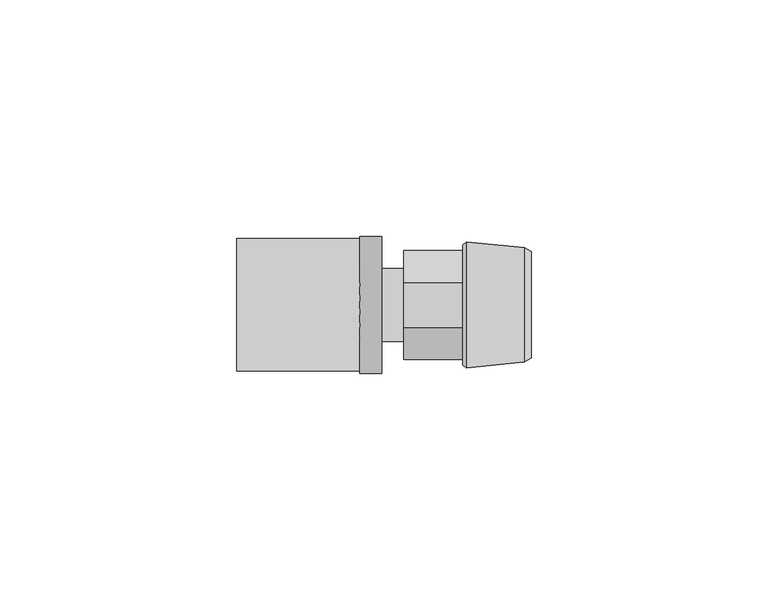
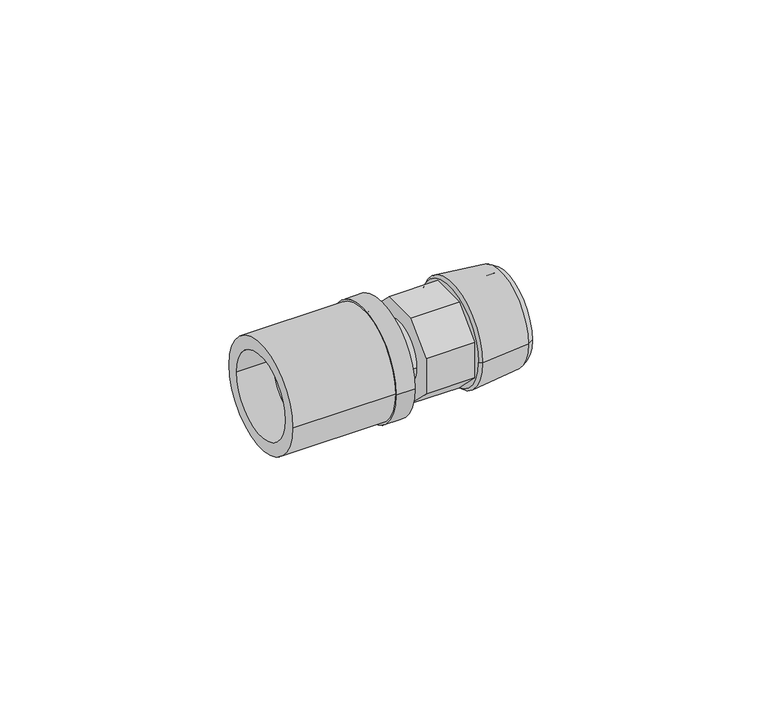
"""IFC4 building model written with IfcOpenShell, lengths in millimetres: pipe fitting geometry, FASTLOC_Adapter_RX+, with external thread : FSL A C external EX+ AT."""

import ifcopenshell
import ifcopenshell.guid

model = None  # the IFC model being written
_history = None  # IfcOwnerHistory: only IFC2X3 demands one
_inside = {}  # id of a spatial element -> (the spatial element, [elements in it])
_under = {}  # id of a project, library or spatial element -> (it, [spatial elements below it])
_declared = {}  # id of a project -> (the project, [libraries it declares])
_typed = {}  # id of a type object -> (the type object, [elements of that type])
_made_of = {}  # id of a material, layer set ... -> (it, [elements and type objects made of it])


def new_model(schema):
    """Start an empty IFC model of exactly this schema.

    Asked for "IFC4X3", IfcOpenShell would pick the latest addendum, in which some entities
    have other attributes; the version numbers below select the first issue.
    IFC2X3 requires an IfcOwnerHistory on every rooted entity: one is made here for all.
    """
    global model, _history
    if schema == "IFC4X3":
        model = ifcopenshell.file(schema_version=(4, 3, 0, 0))
    else:
        model = ifcopenshell.file(schema=schema)
    _inside.clear()
    _under.clear()
    _declared.clear()
    _typed.clear()
    _made_of.clear()
    _history = None
    if model.schema == "IFC2X3":
        org = make("IfcOrganization", Name="unknown")
        user = make(
            "IfcPersonAndOrganization",
            ThePerson=make("IfcPerson", FamilyName="unknown"),
            TheOrganization=org,
        )
        app = make(
            "IfcApplication",
            ApplicationDeveloper=org,
            Version="unknown",
            ApplicationFullName="unknown",
            ApplicationIdentifier="unknown",
        )
        _history = make(
            "IfcOwnerHistory",
            OwningUser=user,
            OwningApplication=app,
            ChangeAction="ADDED",
            CreationDate=0,
        )
    return model


def make(cls, **values):
    """One entity of the class cls with the attributes given. An attribute that is None is left unset."""
    return model.create_entity(
        cls, **{name: value for name, value in values.items() if value is not None}
    )


def rooted(cls, **values):
    """An entity with a GlobalId (a new one), such as an element, a storey or a relation."""
    return make(cls, GlobalId=ifcopenshell.guid.new(), OwnerHistory=_history, **values)


def si_unit(unit_type, name, prefix=None):
    """IfcSIUnit, for example si_unit("LENGTHUNIT", "METRE", prefix="MILLI")."""
    return make("IfcSIUnit", UnitType=unit_type, Prefix=prefix, Name=name)


def assignment(units):
    """IfcUnitAssignment: the units of a project."""
    return None if units is None else make("IfcUnitAssignment", Units=units)


def point(xyz):
    """IfcCartesianPoint."""
    return None if xyz is None else make("IfcCartesianPoint", Coordinates=xyz)


def direction(xyz):
    """IfcDirection."""
    return None if xyz is None else make("IfcDirection", DirectionRatios=xyz)


def frame(location, z_axis=None, x_axis=None):
    """IfcAxis2Placement3D, a coordinate frame: its origin and axes. An axis left out is left unset."""
    return make(
        "IfcAxis2Placement3D",
        Location=point(location),
        Axis=direction(z_axis),
        RefDirection=direction(x_axis),
    )


def frame_2d(location, x_axis=None):
    """IfcAxis2Placement2D, a coordinate frame in the plane: its origin and x axis."""
    return make(
        "IfcAxis2Placement2D", Location=point(location), RefDirection=direction(x_axis)
    )


def origin():
    """The frame at (0, 0, 0) with its axes left unset."""
    return frame((0.0, 0.0, 0.0))


def origin_2d():
    """The frame at (0, 0) in the plane with its x axis left unset."""
    return frame_2d((0.0, 0.0))


def place(relative_to, where):
    """IfcLocalPlacement: puts the frame where relative to a parent placement (None: the world)."""
    return make(
        "IfcLocalPlacement", PlacementRelTo=relative_to, RelativePlacement=where
    )


def context(
    kind, dimensions, precision=None, world=None, true_north=None, identifier=None
):
    """IfcGeometricRepresentationContext, for example the 3D "Model" context."""
    return make(
        "IfcGeometricRepresentationContext",
        ContextIdentifier=identifier,
        ContextType=kind,
        CoordinateSpaceDimension=dimensions,
        Precision=precision,
        WorldCoordinateSystem=world,
        TrueNorth=true_north,
    )


def project(units=None, contexts=None):
    """IfcProject with its units and contexts."""
    return rooted(
        "IfcProject",
        Name="project",
        RepresentationContexts=contexts,
        UnitsInContext=assignment(units),
    )


def spatial(cls, under=None, at=None, **own):
    """A site, building, storey or space (cls), placed at a placement, below another one or the project."""
    s = rooted(cls, ObjectPlacement=at, **own)
    if under is not None:
        _under.setdefault(under.id(), (under, []))[1].append(s)
    return s


def polyline(points):
    """IfcPolyline through the points."""
    return make("IfcPolyline", Points=[point(p) for p in points])


def circle_curve(where, radius):
    """IfcCircle in the frame where."""
    return make("IfcCircle", Position=where, Radius=radius)


def trimmed(basis, trim1, trim2, sense, master):
    """IfcTrimmedCurve: the piece of a basis curve between two trims."""
    return make(
        "IfcTrimmedCurve",
        BasisCurve=basis,
        Trim1=trim1,
        Trim2=trim2,
        SenseAgreement=sense,
        MasterRepresentation=master,
    )


def segment(curve, same_sense, transition):
    """IfcCompositeCurveSegment."""
    return make(
        "IfcCompositeCurveSegment",
        Transition=transition,
        SameSense=same_sense,
        ParentCurve=curve,
    )


def composite_curve(segments, self_intersect=None):
    """IfcCompositeCurve: segments joined end to end."""
    return make("IfcCompositeCurve", Segments=segments, SelfIntersect=self_intersect)


def outline(outer, holes=None, kind="AREA"):
    """IfcArbitraryClosedProfileDef: a profile drawn as a closed curve; with holes, ...WithVoids."""
    if holes is None:
        return make("IfcArbitraryClosedProfileDef", ProfileType=kind, OuterCurve=outer)
    return make(
        "IfcArbitraryProfileDefWithVoids",
        ProfileType=kind,
        OuterCurve=outer,
        InnerCurves=holes,
    )


def extrude(swept, where, along, depth):
    """IfcExtrudedAreaSolid: the profile swept, set in the frame where, extruded along a direction by depth."""
    return make(
        "IfcExtrudedAreaSolid",
        SweptArea=swept,
        Position=where,
        ExtrudedDirection=direction(along),
        Depth=depth,
    )


def shape(context_of_items, identifier, shape_type, items):
    """IfcShapeRepresentation: the items that make up one representation, for example the "Body"."""
    return make(
        "IfcShapeRepresentation",
        ContextOfItems=context_of_items,
        RepresentationIdentifier=identifier,
        RepresentationType=shape_type,
        Items=items,
    )


def source(mapping_origin, context_of_items, identifier, shape_type, items):
    """IfcRepresentationMap: a shape defined once, which mapped items show again and again."""
    return make(
        "IfcRepresentationMap",
        MappingOrigin=mapping_origin,
        MappedRepresentation=shape(context_of_items, identifier, shape_type, items),
    )


def transform(
    local_origin,
    x_axis=None,
    y_axis=None,
    z_axis=None,
    scale=None,
    scale2=None,
    scale3=None,
    uniform=True,
):
    """IfcCartesianTransformationOperator3D, or its non-uniform kind. x_axis, y_axis, z_axis: its Axis1, 2, 3."""
    if uniform:
        return make(
            "IfcCartesianTransformationOperator3D",
            Axis1=direction(x_axis),
            Axis2=direction(y_axis),
            LocalOrigin=point(local_origin),
            Scale=scale,
            Axis3=direction(z_axis),
        )
    return make(
        "IfcCartesianTransformationOperator3DnonUniform",
        Axis1=direction(x_axis),
        Axis2=direction(y_axis),
        LocalOrigin=point(local_origin),
        Scale=scale,
        Axis3=direction(z_axis),
        Scale2=scale2,
        Scale3=scale3,
    )


def mapped(mapping_source, mapping_target):
    """IfcMappedItem: shows the shape of a source again, moved by a transform."""
    return make(
        "IfcMappedItem", MappingSource=mapping_source, MappingTarget=mapping_target
    )


def made_of(thing, what):
    """Note that an element or type object is made of a material, layer set ...; save() writes the relation."""
    if what is not None:
        _made_of.setdefault(what.id(), (what, []))[1].append(thing)
    return thing


def element(
    cls,
    number,
    at=None,
    inside=None,
    cuts=None,
    type_object=None,
    material=None,
    context=None,
    identifier="Body",
    shape_type=None,
    held_by="IfcProductDefinitionShape",
    body=None,
    shapes=None,
    **own,
):
    """One element of the class cls, such as IfcWall. Its Tag is "e" and its number.

    at: its placement. inside: the storey or other place that contains it. cuts: it is an
    opening in that element (IfcRelVoidsElement). A single representation is given by context,
    identifier, shape_type and body (its items); several are given by shapes. held_by: the class
    of the entity that holds the representations. save() writes the other relations.
    """
    e = rooted(cls, Tag="e%d" % number, ObjectPlacement=at, **own)
    if body is not None:
        shapes = [shape(context, identifier, shape_type, body)]
    if shapes is not None:
        e.Representation = make(held_by, Representations=shapes)
    if inside is not None:
        _inside.setdefault(inside.id(), (inside, []))[1].append(e)
    if cuts is not None:
        rooted(
            "IfcRelVoidsElement", RelatingBuildingElement=cuts, RelatedOpeningElement=e
        )
    if type_object is not None:
        _typed.setdefault(type_object.id(), (type_object, []))[1].append(e)
    return made_of(e, material)


def aggregate(whole, parts):
    """IfcRelAggregates: a whole, such as a stair, and the parts it consists of."""
    return rooted("IfcRelAggregates", RelatingObject=whole, RelatedObjects=parts)


def save(model, path):
    """Write the relations noted so far, then the file.

    IfcRelAggregates (storeys below a building ...), IfcRelContainedInSpatialStructure (elements
    in a storey), IfcRelDefinesByType, IfcRelAssociatesMaterial and IfcRelDeclares: one each for
    every whole, place, type object, material and project.
    """
    for whole, parts in _under.values():
        aggregate(whole, parts)
    for where, things in _inside.values():
        rooted(
            "IfcRelContainedInSpatialStructure",
            RelatedElements=things,
            RelatingStructure=where,
        )
    for kind, things in _typed.values():
        rooted("IfcRelDefinesByType", RelatedObjects=things, RelatingType=kind)
    for what, things in _made_of.values():
        rooted("IfcRelAssociatesMaterial", RelatedObjects=things, RelatingMaterial=what)
    for by, libraries in _declared.values():
        rooted("IfcRelDeclares", RelatingContext=by, RelatedDefinitions=libraries)
    model.write(path)


def plane_surface(at):
    """IfcPlane: the flat surface through the origin of the frame at, square to its z axis."""
    return make("IfcPlane", Position=at)


def cylinder_surface(at, radius):
    """IfcCylindricalSurface: all points at the distance radius from the z axis of the frame at."""
    return make("IfcCylindricalSurface", Position=at, Radius=radius)


def revolved_surface(curve, axis_point, axis_direction):
    """IfcSurfaceOfRevolution: the curve turned about the line through axis_point along axis_direction."""
    return make(
        "IfcSurfaceOfRevolution",
        SweptCurve=make("IfcArbitraryOpenProfileDef", ProfileType="CURVE", Curve=curve),
        AxisPosition=make("IfcAxis1Placement", Location=point(axis_point), Axis=direction(axis_direction)),
    )


def advanced_brep(points, edges, surfaces, faces):
    """IfcAdvancedBrep: a solid bounded by faces that lie on surfaces and meet in shared edges.

    An edge is (start, end): straight between two places in points (the first is 0);
    or (start, end, curve); or (start, end, curve, False) where it runs against its curve.
    A face is (place in surfaces, loops), or (place, loops, False) where it looks against
    its surface's normal. A loop lists edges by number (the first is 1), with a minus sign
    where the edge is run from its end to its start. The first loop is the outer one.
    """
    corners = [point(p) for p in points]
    vertices = [make("IfcVertexPoint", VertexGeometry=c) for c in corners]
    made = []
    for start, end, *more in edges:
        made.append(
            make(
                "IfcEdgeCurve",
                EdgeStart=vertices[start],
                EdgeEnd=vertices[end],
                EdgeGeometry=more[0] if more else make("IfcPolyline", Points=[corners[start], corners[end]]),
                SameSense=more[1] if len(more) > 1 else True,
            )
        )
    hull = []
    for where, loops, *sense in faces:
        bounds = []
        for j, loop in enumerate(loops):
            ring = [make("IfcOrientedEdge", EdgeElement=made[abs(k) - 1], Orientation=k > 0) for k in loop]
            bounds.append(
                make(
                    "IfcFaceOuterBound" if j == 0 else "IfcFaceBound",
                    Bound=make("IfcEdgeLoop", EdgeList=ring),
                    Orientation=True,
                )
            )
        hull.append(make("IfcAdvancedFace", Bounds=bounds, FaceSurface=surfaces[where], SameSense=sense[0] if sense else True))
    return make("IfcAdvancedBrep", Outer=make("IfcClosedShell", CfsFaces=hull))


def pipe_fitting_5ed0d7cb(model_context):
    return source(origin(), model_context, "Body", "SolidModel", [
        extrude(outline(composite_curve([segment(trimmed(circle_curve(origin_2d(), 14.0), [point((14.0, 0.0))], [point((-14.0, 0.0))], False, "CARTESIAN"), True, "CONTINUOUS"), segment(trimmed(circle_curve(origin_2d(), 14.0), [point((-14.0, 0.0))], [point((14.0, 0.0))], False, "CARTESIAN"), True, "CONTINUOUS")], self_intersect=False), holes=[composite_curve([segment(trimmed(circle_curve(origin_2d(), 10.7), [point((10.7, 0.0))], [point((-10.7, 0.0))], True, "CARTESIAN"), True, "CONTINUOUS"), segment(trimmed(circle_curve(origin_2d(), 10.7), [point((-10.7, 0.0))], [point((10.7, 0.0))], True, "CARTESIAN"), True, "CONTINUOUS")], self_intersect=False)]), frame((-35.3, 0.0, 0.0), z_axis=(1.0, 0.0, 0.0), x_axis=(0.0, 1.0, 0.0)), (0.0, 0.0, 1.0), 26.0),
        advanced_brep(
        [(-9.3, -14.5, 0.0), (-9.3, 14.5, 0.0), (-4.6, 14.5, 0.0), (-4.6, -14.5, 0.0), (-26.3, -11.85, 0.0), (-26.3, 11.85, 0.0), (-9.3, 11.85, 0.0), (-9.3, -11.85, 0.0), (-4.6, -10.15, 0.0), (-4.6, 10.15, 0.0), (-26.3, 10.15, 0.0), (-26.3, -10.15, 0.0)],
        [
            (0, 1, circle_curve(frame((-9.3, 0.0, 0.0), z_axis=(1.0, 0.0, 0.0), x_axis=(0.0, 1.0, 0.0)), 14.5)),
            (1, 2),
            (2, 3, circle_curve(frame((-4.6, 0.0, 0.0), z_axis=(-1.0, 0.0, 0.0), x_axis=(0.0, 1.0, 0.0)), 14.5)),
            (3, 0),
            (4, 5, circle_curve(frame((-26.3, 0.0, 0.0), z_axis=(1.0, 0.0, 0.0), x_axis=(0.0, 1.0, 0.0)), 11.85)),
            (5, 6),
            (6, 7, circle_curve(frame((-9.3, 0.0, 0.0), z_axis=(-1.0, 0.0, 0.0), x_axis=(0.0, 1.0, 0.0)), 11.85)),
            (7, 4),
            (8, 9, circle_curve(frame((-4.6, 0.0, 0.0), z_axis=(1.0, 0.0, 0.0), x_axis=(0.0, 1.0, 0.0)), 10.15)),
            (9, 10),
            (10, 11, circle_curve(frame((-26.3, 0.0, 0.0), z_axis=(-1.0, 0.0, 0.0), x_axis=(0.0, 1.0, 0.0)), 10.15)),
            (11, 8),
            (1, 0, circle_curve(frame((-9.3, 0.0, 0.0), z_axis=(1.0, 0.0, 0.0), x_axis=(0.0, -1.0, 0.0)), 14.5)),
            (3, 2, circle_curve(frame((-4.6, 0.0, 0.0), z_axis=(-1.0, 0.0, 0.0), x_axis=(0.0, -1.0, 0.0)), 14.5)),
            (6, 7, circle_curve(frame((-9.3, 0.0, 0.0), z_axis=(1.0, 0.0, 0.0), x_axis=(0.0, -1.0, 0.0)), 11.85)),
            (5, 4, circle_curve(frame((-26.3, 0.0, 0.0), z_axis=(1.0, 0.0, 0.0), x_axis=(0.0, -1.0, 0.0)), 11.85)),
            (10, 11, circle_curve(frame((-26.3, 0.0, 0.0), z_axis=(1.0, 0.0, 0.0), x_axis=(0.0, -1.0, 0.0)), 10.15)),
            (9, 8, circle_curve(frame((-4.6, 0.0, 0.0), z_axis=(1.0, 0.0, 0.0), x_axis=(0.0, -1.0, 0.0)), 10.15)),
        ],
        [
            cylinder_surface(frame((-4.6, 0.0, 0.0), z_axis=(-1.0, 0.0, 0.0), x_axis=(0.0, 1.0, 0.0)), 14.5),
            cylinder_surface(frame((-4.6, 0.0, 0.0), z_axis=(-1.0, 0.0, 0.0), x_axis=(0.0, 1.0, 0.0)), 11.85),
            revolved_surface(polyline([(-26.300000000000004, 10.15, 0.0), (-4.6, 10.15, 0.0)]), (-4.6, 0.0, 0.0), (-1.0, 0.0, 0.0)),
            cylinder_surface(frame((-4.6, 0.0, 0.0), z_axis=(-1.0, 0.0, 0.0), x_axis=(0.0, -1.0, 0.0)), 14.5),
            plane_surface(frame((-9.3, 0.0, 0.0), z_axis=(-1.0, 0.0, 0.0), x_axis=(0.0, -1.0, 0.0))),
            cylinder_surface(frame((-4.6, 0.0, 0.0), z_axis=(-1.0, 0.0, 0.0), x_axis=(0.0, -1.0, 0.0)), 11.85),
            plane_surface(frame((-26.3, 0.0, 0.0), z_axis=(-1.0, 0.0, 0.0), x_axis=(0.0, -1.0, 0.0))),
            revolved_surface(polyline([(-26.300000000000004, -10.15, 0.0), (-4.6, -10.15, 0.0)]), (-4.6, 0.0, 0.0), (-1.0, 0.0, 0.0)),
            plane_surface(frame((-4.6, 0.0, 0.0), z_axis=(1.0, 0.0, 0.0), x_axis=(0.0, -1.0, 0.0))),
        ],
        [
            (0, [[1, 2, 3, 4]]),
            (1, [[5, 6, 7, 8]]),
            (2, [[9, 10, 11, 12]]),
            (3, [[13, -4, 14, -2]]),
            (4, [[-13, -1], [15, -7]]),
            (5, [[16, -8, -15, -6]]),
            (6, [[-16, -5], [17, -11]]),
            (7, [[18, -12, -17, -10]]),
            (8, [[-14, -3], [-18, -9]]),
        ],
    ),
        advanced_brep(
        [(13.6032803, 9.5, 0.0), (13.6032803, -9.5, 0.0), (27.0, -9.5, 0.0), (27.0, 9.5, 0.0), (12.5, 8.3967197, 0.0), (12.5, -8.3967197, 0.0), (13.2406902, 13.3, 0.0), (13.2406902, -13.3, 0.0), (12.5, -12.7, 0.0), (12.5, 12.7, 0.0), (25.5000007, 12.1, 0.0), (25.5000007, -12.1, 0.0), (27.0, 11.25, 0.0), (27.0, -11.25, 0.0)],
        [
            (0, 1, circle_curve(frame((13.6032803, 0.0, 0.0), z_axis=(-1.0, 0.0, 0.0), x_axis=(0.0, -1.0, 0.0)), 9.5)),
            (1, 2),
            (2, 3, circle_curve(frame((27.0, 0.0, 0.0), z_axis=(1.0, 0.0, 0.0), x_axis=(0.0, -1.0, 0.0)), 9.5)),
            (3, 0),
            (4, 5, circle_curve(frame((12.5, 0.0, 0.0), z_axis=(-1.0, 0.0, 0.0), x_axis=(0.0, -1.0, 0.0)), 8.3967197)),
            (5, 1),
            (0, 4),
            (6, 7, circle_curve(frame((13.2406902, 0.0, 0.0), z_axis=(-1.0, 0.0, 0.0), x_axis=(0.0, -1.0, 0.0)), 13.3)),
            (7, 8),
            (8, 9, circle_curve(frame((12.5, 0.0, 0.0), z_axis=(1.0, 0.0, 0.0), x_axis=(0.0, -1.0, 0.0)), 12.7)),
            (9, 6),
            (10, 11, circle_curve(frame((25.5000007, 0.0, 0.0), z_axis=(-1.0, 0.0, 0.0), x_axis=(0.0, -1.0, 0.0)), 12.1)),
            (11, 7),
            (6, 10),
            (12, 13, circle_curve(frame((27.0, 0.0, 0.0), z_axis=(-1.0, 0.0, 0.0), x_axis=(0.0, -1.0, 0.0)), 11.25)),
            (13, 11),
            (10, 12),
            (1, 0, circle_curve(frame((13.6032803, 0.0, 0.0), z_axis=(-1.0, 0.0, 0.0), x_axis=(0.0, 1.0, 0.0)), 9.5)),
            (3, 2, circle_curve(frame((27.0, 0.0, 0.0), z_axis=(1.0, 0.0, 0.0), x_axis=(0.0, 1.0, 0.0)), 9.5)),
            (5, 4, circle_curve(frame((12.5, 0.0, 0.0), z_axis=(-1.0, 0.0, 0.0), x_axis=(0.0, 1.0, 0.0)), 8.3967197)),
            (8, 9, circle_curve(frame((12.5, 0.0, 0.0), z_axis=(-1.0, 0.0, 0.0), x_axis=(0.0, 1.0, 0.0)), 12.7)),
            (7, 6, circle_curve(frame((13.2406902, 0.0, 0.0), z_axis=(-1.0, 0.0, 0.0), x_axis=(0.0, 1.0, 0.0)), 13.3)),
            (11, 10, circle_curve(frame((25.5000007, 0.0, 0.0), z_axis=(-1.0, 0.0, 0.0), x_axis=(0.0, 1.0, 0.0)), 12.1)),
            (13, 12, circle_curve(frame((27.0, 0.0, 0.0), z_axis=(-1.0, 0.0, 0.0), x_axis=(0.0, 1.0, 0.0)), 11.25)),
        ],
        [
            revolved_surface(polyline([(27.0, -9.5, 0.0), (13.6032803, -9.5, 0.0)]), (0.0, 0.0, 0.0), (1.0, 0.0, 0.0)),
            revolved_surface(polyline([(13.6032803, -9.5, 0.0), (12.5, -8.3967197, 0.0)]), (0.0, 0.0, 0.0), (1.0, 0.0, 0.0)),
            revolved_surface(polyline([(12.5, -12.7, 0.0), (13.2406902, -13.3, 0.0)]), (0.0, 0.0, 0.0), (1.0, 0.0, 0.0)),
            revolved_surface(polyline([(13.2406902, -13.3, 0.0), (25.5000007, -12.1, 0.0)]), (0.0, 0.0, 0.0), (1.0, 0.0, 0.0)),
            revolved_surface(polyline([(25.5000007, -12.1, 0.0), (27.0, -11.25, 0.0)]), (0.0, 0.0, 0.0), (1.0, 0.0, 0.0)),
            revolved_surface(polyline([(27.0, 9.5, 0.0), (13.6032803, 9.5, 0.0)]), (0.0, 0.0, 0.0), (1.0, 0.0, 0.0)),
            revolved_surface(polyline([(13.6032803, 9.5, 0.0), (12.5, 8.3967197, 0.0)]), (0.0, 0.0, 0.0), (1.0, 0.0, 0.0)),
            plane_surface(frame((12.5, 0.0, 0.0), z_axis=(-1.0, 0.0, 0.0), x_axis=(0.0, 1.0, 0.0))),
            revolved_surface(polyline([(12.5, 12.7, 0.0), (13.2406902, 13.3, 0.0)]), (0.0, 0.0, 0.0), (1.0, 0.0, 0.0)),
            revolved_surface(polyline([(13.2406902, 13.3, 0.0), (25.5000007, 12.1, 0.0)]), (0.0, 0.0, 0.0), (1.0, 0.0, 0.0)),
            revolved_surface(polyline([(25.5000007, 12.1, 0.0), (27.0, 11.25, 0.0)]), (0.0, 0.0, 0.0), (1.0, 0.0, 0.0)),
            plane_surface(frame((27.0, 0.0, 0.0), z_axis=(1.0, 0.0, 0.0), x_axis=(0.0, 1.0, 0.0))),
        ],
        [
            (0, [[1, 2, 3, 4]]),
            (1, [[5, 6, -1, 7]]),
            (2, [[8, 9, 10, 11]]),
            (3, [[12, 13, -8, 14]]),
            (4, [[15, 16, -12, 17]]),
            (5, [[18, -4, 19, -2]]),
            (6, [[20, -7, -18, -6]]),
            (7, [[21, -10], [-20, -5]]),
            (8, [[22, -11, -21, -9]]),
            (9, [[23, -14, -22, -13]]),
            (10, [[24, -17, -23, -16]]),
            (11, [[-24, -15], [-19, -3]]),
        ],
    ),
        extrude(outline(polyline([(-11.5, 4.763456), (-4.763456, 11.5), (4.763456, 11.5), (11.5, 4.763456), (11.5, -4.763456), (4.763456, -11.5), (-4.763456, -11.5), (-11.5, -4.763456), (-11.5, 4.763456)])), frame((0.0, 0.0, 0.0), z_axis=(1.0, 0.0, 0.0), x_axis=(0.0, 1.0, 0.0)), (0.0, 0.0, 1.0), 12.5),
        advanced_brep(
        [(-26.7, 5.75, 0.0), (-26.7, -5.75, 0.0), (0.0, -5.75, 0.0), (0.0, 5.75, 0.0), (0.0, 7.75, 0.0), (0.0, -7.75, 0.0), (-6.6, -7.75, 0.0), (-6.6, 7.75, 0.0), (-6.6, 8.8, 0.0), (-6.6, -8.8, 0.0), (-9.3, -8.8, 0.0), (-9.3, 8.8, 0.0), (-9.3, 7.75, 0.0), (-9.3, -7.75, 0.0), (-26.7, -7.75, 0.0), (-26.7, 7.75, 0.0)],
        [
            (0, 1, circle_curve(frame((-26.7, 0.0, 0.0), z_axis=(-1.0, 0.0, 0.0), x_axis=(0.0, -1.0, 0.0)), 5.75)),
            (1, 2),
            (2, 3, circle_curve(frame((0.0, 0.0, 0.0), z_axis=(1.0, 0.0, 0.0), x_axis=(0.0, -1.0, 0.0)), 5.75)),
            (3, 0),
            (4, 5, circle_curve(frame((0.0, 0.0, 0.0), z_axis=(-1.0, 0.0, 0.0), x_axis=(0.0, -1.0, 0.0)), 7.75)),
            (5, 6),
            (6, 7, circle_curve(frame((-6.6, 0.0, 0.0), z_axis=(1.0, 0.0, 0.0), x_axis=(0.0, -1.0, 0.0)), 7.75)),
            (7, 4),
            (8, 9, circle_curve(frame((-6.6, 0.0, 0.0), z_axis=(-1.0, 0.0, 0.0), x_axis=(0.0, -1.0, 0.0)), 8.8)),
            (9, 10),
            (10, 11, circle_curve(frame((-9.3, 0.0, 0.0), z_axis=(1.0, 0.0, 0.0), x_axis=(0.0, -1.0, 0.0)), 8.8)),
            (11, 8),
            (12, 13, circle_curve(frame((-9.3, 0.0, 0.0), z_axis=(-1.0, 0.0, 0.0), x_axis=(0.0, -1.0, 0.0)), 7.75)),
            (13, 14),
            (14, 15, circle_curve(frame((-26.7, 0.0, 0.0), z_axis=(1.0, 0.0, 0.0), x_axis=(0.0, -1.0, 0.0)), 7.75)),
            (15, 12),
            (1, 0, circle_curve(frame((-26.7, 0.0, 0.0), z_axis=(-1.0, 0.0, 0.0), x_axis=(0.0, 1.0, 0.0)), 5.75)),
            (3, 2, circle_curve(frame((0.0, 0.0, 0.0), z_axis=(1.0, 0.0, 0.0), x_axis=(0.0, 1.0, 0.0)), 5.75)),
            (4, 5, circle_curve(frame((0.0, 0.0, 0.0), z_axis=(1.0, 0.0, 0.0), x_axis=(0.0, 1.0, 0.0)), 7.75)),
            (7, 6, circle_curve(frame((-6.6, 0.0, 0.0), z_axis=(1.0, 0.0, 0.0), x_axis=(0.0, 1.0, 0.0)), 7.75)),
            (8, 9, circle_curve(frame((-6.6, 0.0, 0.0), z_axis=(1.0, 0.0, 0.0), x_axis=(0.0, 1.0, 0.0)), 8.8)),
            (11, 10, circle_curve(frame((-9.3, 0.0, 0.0), z_axis=(1.0, 0.0, 0.0), x_axis=(0.0, 1.0, 0.0)), 8.8)),
            (12, 13, circle_curve(frame((-9.3, 0.0, 0.0), z_axis=(1.0, 0.0, 0.0), x_axis=(0.0, 1.0, 0.0)), 7.75)),
            (15, 14, circle_curve(frame((-26.7, 0.0, 0.0), z_axis=(1.0, 0.0, 0.0), x_axis=(0.0, 1.0, 0.0)), 7.75)),
        ],
        [
            revolved_surface(polyline([(0.0, -5.75, 0.0), (-26.7, -5.75, 0.0)]), (0.0, 0.0, 0.0), (1.0, 0.0, 0.0)),
            cylinder_surface(frame((0.0, 0.0, 0.0), z_axis=(1.0, 0.0, 0.0), x_axis=(0.0, -1.0, 0.0)), 7.75),
            cylinder_surface(frame((0.0, 0.0, 0.0), z_axis=(1.0, 0.0, 0.0), x_axis=(0.0, -1.0, 0.0)), 8.8),
            revolved_surface(polyline([(0.0, 5.75, 0.0), (-26.7, 5.75, 0.0)]), (0.0, 0.0, 0.0), (1.0, 0.0, 0.0)),
            plane_surface(frame((0.0, 0.0, 0.0), z_axis=(1.0, 0.0, 0.0), x_axis=(0.0, 1.0, 0.0))),
            cylinder_surface(frame((0.0, 0.0, 0.0), z_axis=(1.0, 0.0, 0.0), x_axis=(0.0, 1.0, 0.0)), 7.75),
            plane_surface(frame((-6.6, 0.0, 0.0), z_axis=(1.0, 0.0, 0.0), x_axis=(0.0, 1.0, 0.0))),
            cylinder_surface(frame((0.0, 0.0, 0.0), z_axis=(1.0, 0.0, 0.0), x_axis=(0.0, 1.0, 0.0)), 8.8),
            plane_surface(frame((-9.3, 0.0, 0.0), z_axis=(-1.0, 0.0, 0.0), x_axis=(0.0, 1.0, 0.0))),
            plane_surface(frame((-26.7, 0.0, 0.0), z_axis=(-1.0, 0.0, 0.0), x_axis=(0.0, 1.0, 0.0))),
        ],
        [
            (0, [[1, 2, 3, 4]]),
            (1, [[5, 6, 7, 8]]),
            (2, [[9, 10, 11, 12]]),
            (1, [[13, 14, 15, 16]]),
            (3, [[17, -4, 18, -2]]),
            (4, [[19, -5], [-18, -3]]),
            (5, [[-19, -8, 20, -6]]),
            (6, [[21, -9], [-20, -7]]),
            (7, [[-21, -12, 22, -10]]),
            (8, [[-22, -11], [23, -13]]),
            (5, [[-23, -16, 24, -14]]),
            (9, [[-24, -15], [-17, -1]]),
        ],
    ),
    ])


if __name__ == "__main__":
    model = new_model("IFC4")
    model_context = context("Model", 3, world=origin())
    ifc_project = project(units=[si_unit("LENGTHUNIT", "METRE", prefix="MILLI")], contexts=[model_context])
    site = spatial("IfcSite", under=ifc_project)
    building = spatial("IfcBuilding", under=site)
    placement = place(None, origin())
    pipe_fitting_shape = pipe_fitting_5ed0d7cb(model_context)
    element("IfcPipeFitting", 1, ObjectType="FASTLOC_Adapter_RX+, with external thread : FSL A C external EX+ AT", at=placement, inside=building, context=model_context, shape_type="MappedRepresentation", body=[
        mapped(pipe_fitting_shape, transform((0.0, 0.0, 0.0), x_axis=(1.0, 0.0, 0.0), y_axis=(0.0, 1.0, 0.0), z_axis=(0.0, 0.0, 1.0))),
    ])
    save(model, "model.ifc")
